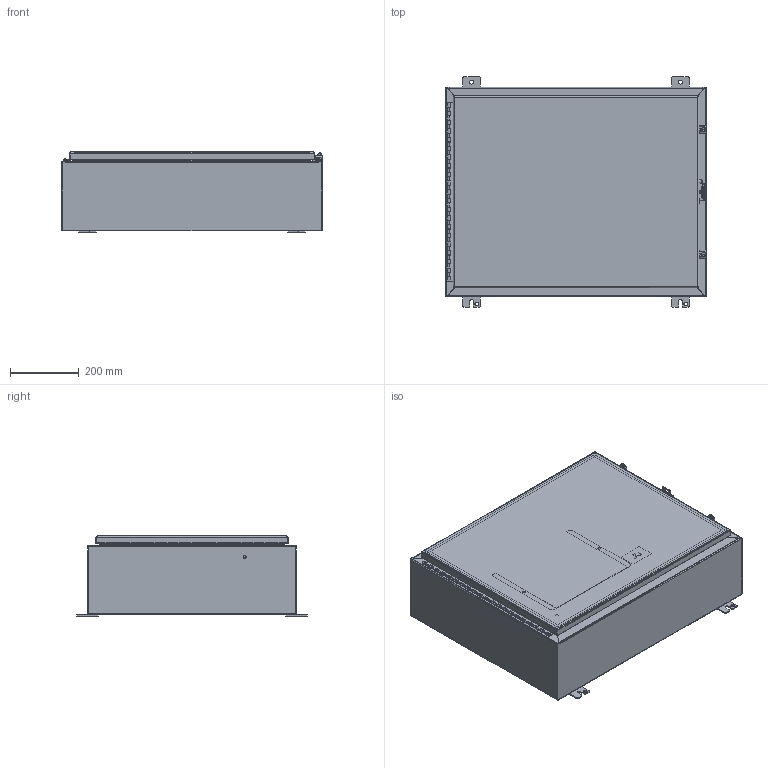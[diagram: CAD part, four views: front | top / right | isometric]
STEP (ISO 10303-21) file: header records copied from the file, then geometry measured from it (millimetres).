
FILE_DESCRIPTION((''),'2;1');
FILE_NAME('MODEL-303_ASM','2026-06-30T10:01:53',('joshi'),('SAGINAW CONTROL & ENGINEERING'),'CREO PARAMETRIC BY PTC INC, 2021284','CREO PARAMETRIC BY PTC INC, 2021284','');
FILE_SCHEMA(('AUTOMOTIVE_DESIGN { 1 0 10303 214 1 1 1 1 }'));
Length unit declared in the file: inch
Products named in the file (30): MODEL-303-BDY; MODEL-303-TP; MODEL-303-BTM; MODEL-303-DR; 100837; 100882; 111267; 125597; 118919_DR; 118919_PIN; 118919_BX; 118919_STUD; 118919_ASM; 100897; MODEL-303-DOOR-GASKET; 128600; 102483; MODEL-303-DOOR-ASSY_ASM; 102211; 101653; 121452; 120131_BASE; 120131_CLAMP; 120131_SCREW; 120131_CLOSED_ASM; 120134; SUBPANEL; 100904; SUBPANEL-SUBASSEMBLY_ASM; MODEL-303_ASM
Assembly tree (52 placements, depth 4):
  MODEL-303_ASM
    MODEL-303-BDY
    MODEL-303-TP
    MODEL-303-BTM
    MODEL-303-DOOR-ASSY_ASM
      MODEL-303-DR
      100837  x3
      100882  x2
      111267
      125597
      118919_ASM
        118919_DR
        118919_PIN
        118919_BX
        118919_STUD  x4
      100897  x4
      MODEL-303-DOOR-GASKET
      128600
      102483
    102211  x4
    100837
    101653  x4
    121452
    120131_CLOSED_ASM  x2
      120131_BASE
      120131_CLAMP
      120131_SCREW
    100882  x3
    120134
    SUBPANEL-SUBASSEMBLY_ASM
      SUBPANEL
      100904  x4
Bounding box: 762 x 673.1 x 233.88 mm (x, y, z)
Volume: 4868498.8 mm3; surface area: 4450823.1 mm2
Topology: 49 solids, 49 shells, 3525 faces, 9148 edges, 5758 vertices
Faces by surface type: plane 1426, bspline 925, cylinder 787, torus 210, sphere 93, cone 84
Entity records: 95871 total; most frequent: CARTESIAN_POINT 30683, ORIENTED_EDGE 9670, DIRECTION 8733, PRESENTATION_STYLE_ASSIGNMENT 4966, STYLED_ITEM 4964, CURVE_STYLE 4835, EDGE_CURVE 4835, VERTEX_POINT 3048
